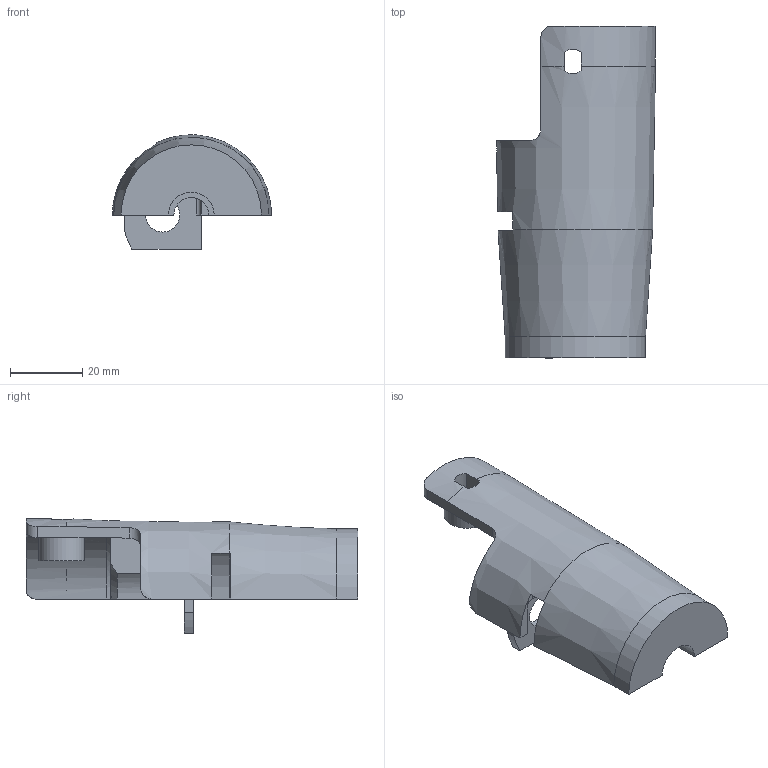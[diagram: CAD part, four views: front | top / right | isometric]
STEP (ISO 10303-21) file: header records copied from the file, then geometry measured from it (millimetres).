
FILE_DESCRIPTION((''),'2;1');
FILE_NAME('C:\Documents and Settings\Powderly\Desktop\ForeArmMountingSubstrate.stp','2005-08-09T02:10:11',('Powderly'),(''),'Autodesk Inventor 10','Autodesk Inventor 10','');
FILE_SCHEMA(('AUTOMOTIVE_DESIGN { 1 0 10303 214 1 1 1 1 }'));
Length unit declared in the file: inch
Products named in the file (1): ForeArmMountingSubstrate
Bounding box: 44.06 x 92.01 x 31.69 mm (x, y, z)
Volume: 32984.2 mm3; surface area: 13797.1 mm2
Topology: 1 solids, 1 shells, 97 faces, 267 edges, 173 vertices
Faces by surface type: plane 55, cylinder 31, cone 9, bspline 2
Full cylindrical faces by diameter (mm): 9.462 x1, 12.7 x1
Entity records: 3204 total; most frequent: CARTESIAN_POINT 716, ORIENTED_EDGE 524, DIRECTION 504, EDGE_CURVE 262, VERTEX_POINT 172, VECTOR 170, LINE 170, AXIS2_PLACEMENT_3D 167
